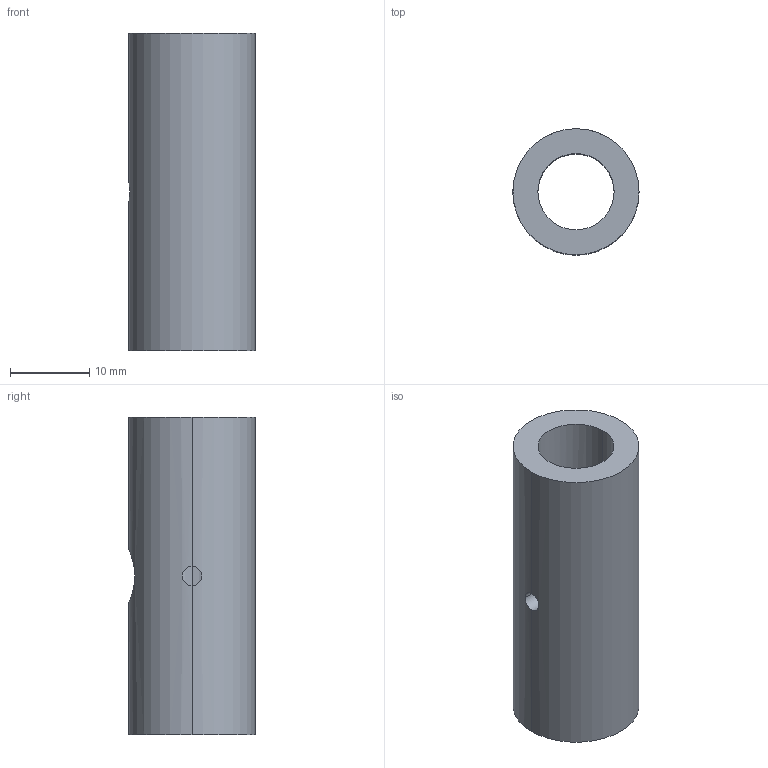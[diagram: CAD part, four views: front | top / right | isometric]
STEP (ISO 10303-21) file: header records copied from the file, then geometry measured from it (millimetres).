
FILE_DESCRIPTION(('CATIA V5 STEP Exchange','CAx-IF Rec.Pracs.--- Model Styling and Organization---1.4--- 2014-01-23','CAx-IF Rec.Pracs.---3D Tessellated Data Validation Properties---0.5---2014-09-14'),'2;1');
FILE_NAME('D:\GrabCAD\I+D\SERIE_LEXA\EKOT-1360-170921A-LEXA_WAIST_SUPPORT\FAB\FAB_C\PDF\MAQUINADO\1360.000.001.002.TUBO.stp','2024-10-31T23:43:20+00:00',('none'),('none'),'CATIA Version 5-6 Release 2018 SP6','CATIA V5 STEP AP242','none');
FILE_SCHEMA(('AP242_MANAGED_MODEL_BASED_3D_ENGINEERING_MIM_LF {1 0 10303 442 1 1 4}'));
Length unit declared in the file: millimetre
Products named in the file (1): 1360.000.001.002.TUBO
Bounding box: 15.88 x 15.88 x 40 mm (x, y, z)
Volume: 4893.6 mm3; surface area: 3465.9 mm2
Topology: 1 solids, 1 shells, 10 faces, 30 edges, 20 vertices
Faces by surface type: cylinder 8, plane 2
Entity records: 457 total; most frequent: CARTESIAN_POINT 171, ORIENTED_EDGE 60, DIRECTION 30, EDGE_CURVE 30, VERTEX_POINT 20, AXIS2_PLACEMENT_3D 15, EDGE_LOOP 14, B_SPLINE_CURVE_WITH_KNOTS 12
